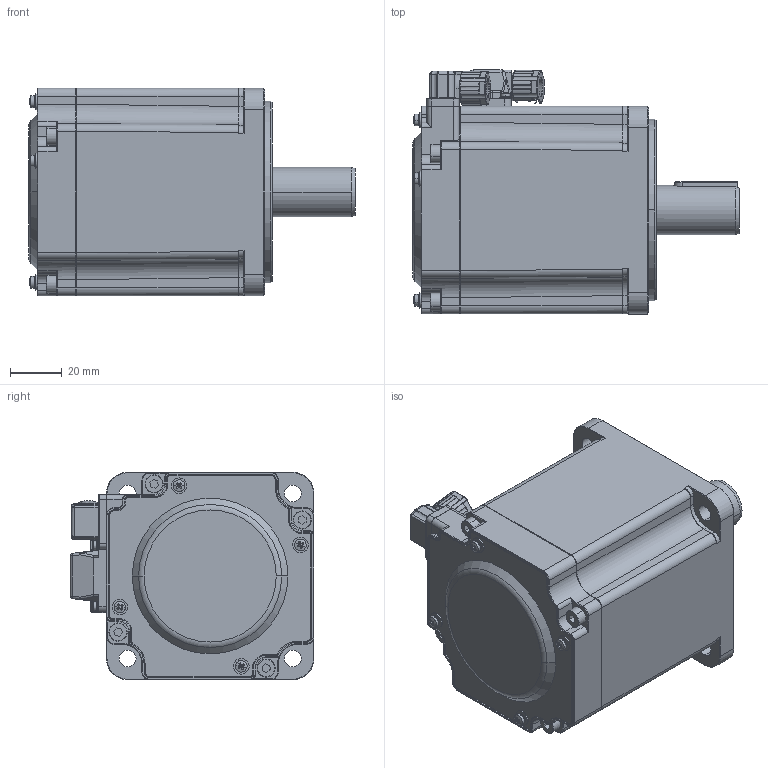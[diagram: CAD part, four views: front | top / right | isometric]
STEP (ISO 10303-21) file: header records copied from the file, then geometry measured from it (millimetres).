
FILE_DESCRIPTION (( 'STEP AP214' ), '1' );
FILE_NAME ('80梓袧軞蚾-眻脣.STEP', '2021-12-26T12:31:00', ( '' ), ( '' ), 'SwSTEP 2.0', 'SolidWorks 2021', '' );
FILE_SCHEMA (( 'AUTOMOTIVE_DESIGN' ));
Length unit declared in the file: millimetre
Products named in the file (1): 80梓袧軞蚾-眻脣
Bounding box: 125.9 x 94 x 80 mm (x, y, z)
Surface area: 55155.1 mm2 (no closed solid volume)
Topology: 0 solids, 46 shells, 1254 faces, 4417 edges, 3035 vertices
Faces by surface type: plane 468, cylinder 441, torus 144, cone 98, bspline 79, sphere 24
Entity records: 65878 total; most frequent: CARTESIAN_POINT 16375, DIRECTION 7176, ORIENTED_EDGE 6947, EDGE_CURVE 4417, VERTEX_POINT 3035, AXIS2_PLACEMENT_3D 2707, LINE 1762, VECTOR 1762
